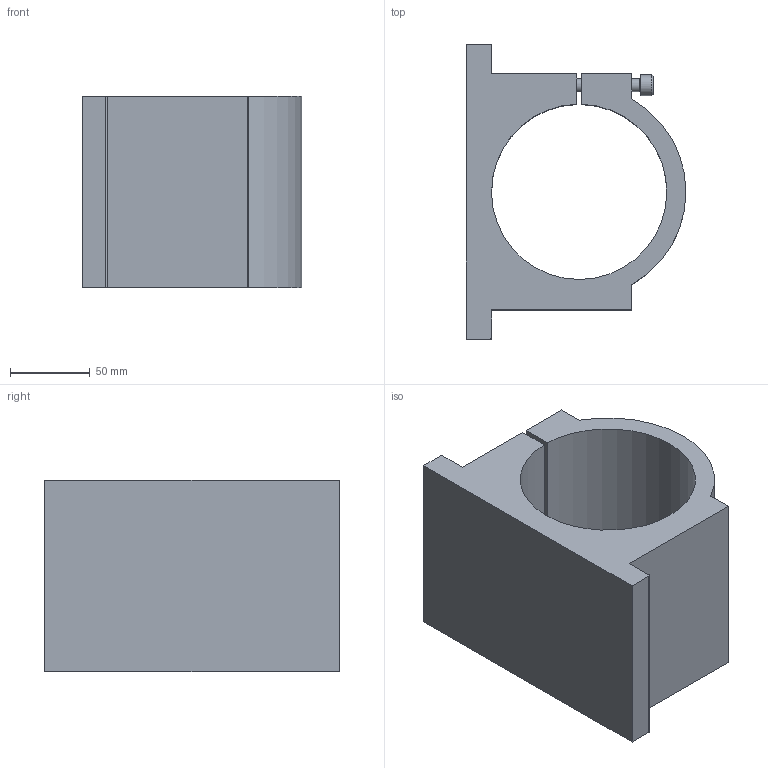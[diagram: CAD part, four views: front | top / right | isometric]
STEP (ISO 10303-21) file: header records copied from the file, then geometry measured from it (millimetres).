
FILE_DESCRIPTION(('STEP AP214'), '1');
FILE_NAME('Êðåïëåíèå äëÿ øïèíäåëÿ SPH110', '', ('UNSPECIFIED'), ('UNSPECIFIED'), 'ASCON STEP Converter 1.6', 'ASCON Math Kernel', '');
FILE_SCHEMA(('AUTOMOTIVE_DESIGN { 1 0 10303 214 3 1 1}'));
Length unit declared in the file: millimetre
Assembly tree (4 placements, depth 2):
  (unnamed)
    (unnamed)
    (unnamed)  x3
Bounding box: 138 x 185 x 120 mm (x, y, z)
Volume: 1109327.5 mm3; surface area: 144209.7 mm2
Topology: 4 solids, 4 shells, 100 faces, 226 edges, 139 vertices
Faces by surface type: plane 61, cylinder 22, cone 14, torus 3
Full cylindrical faces by diameter (mm): 6 x3, 6.647 x3, 8 x3, 9 x2, 13 x3, 13.4 x2
Entity records: 2216 total; most frequent: CARTESIAN_POINT 389, DIRECTION 262, ORIENTED_EDGE 216, EDGE_CURVE 108, AXIS2_PLACEMENT_3D 101, EDGE_LOOP 80, VERTEX_POINT 78, LINE 60
